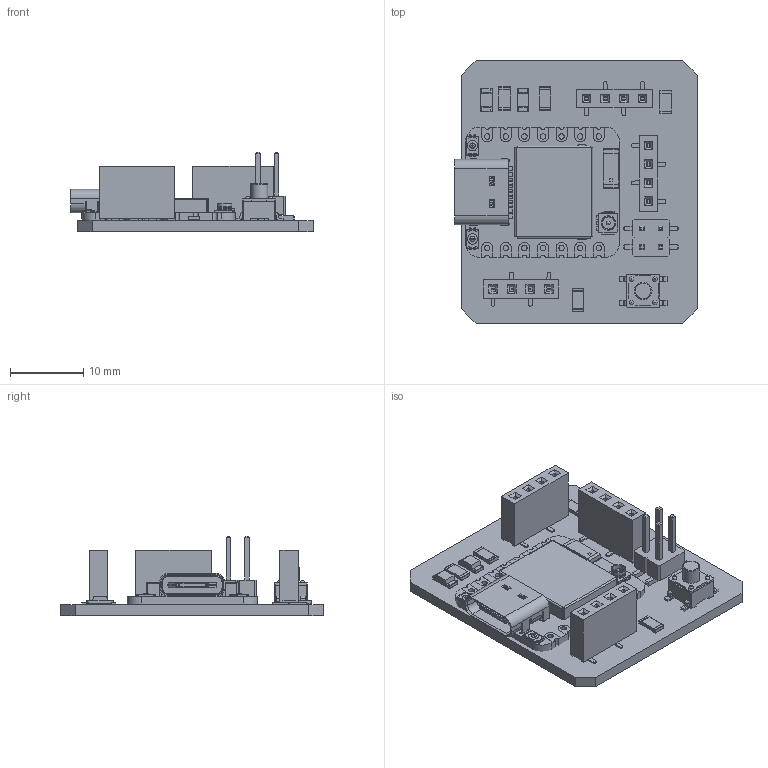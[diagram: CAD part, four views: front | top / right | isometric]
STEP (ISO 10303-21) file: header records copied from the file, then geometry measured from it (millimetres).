
FILE_DESCRIPTION(('KiCad electronic assembly'),'2;1');
FILE_NAME('ESP32.step','2025-03-04T11:24:42',('Pcbnew'),('Kicad'), 'Open CASCADE STEP processor 7.8','KiCad to STEP converter','Unknown' );
FILE_SCHEMA(('AUTOMOTIVE_DESIGN { 1 0 10303 214 1 1 1 1 }'));
Length unit declared in the file: millimetre
Products named in the file (40): ESP32 1; LED_1206_3216Metric; Seeed Studio XIAO ESP32-C6; Seeed Studio XIAO-ESP32-C6; USB TYPE C PORT; USB TYPE C PORT (1); BOSS-EXTRUDE14_8_; BOSS-EXTRUDE7_4_; BOSS-EXTRUDE7_3_; BOSS-EXTRUDE14_4_; BOSS-EXTRUDE14_2_; BOSS-EXTRUDE14_11_; BOSS-EXTRUDE7_7_; BOSS-EXTRUDE14_9_; BOSS-EXTRUDE14_3_; BOSS-EXTRUDE14_7_; MIRROR2; BOSS-EXTRUDE14_5_; BOSS-EXTRUDE14_12_; BOSS-EXTRUDE7_8_; BOSS-EXTRUDE7_1_; BOSS-EXTRUDE14_10_; BOSS-EXTRUDE7_9_; BOSS-EXTRUDE14_6_; CHAMFER9; BOSS-EXTRUDE14_1_; BOSS-EXTRUDE7_6_; BOSS-EXTRUDE7_2_; CUT-EXTRUDE5; BOSS-EXTRUDE7_5_; U.FL Connector v1; Shield; COMPOUND; SKTAAAE010 v1; KH5220-A36 (Ceramic Antenna) v2; PinSocket_1x04_P2.54mm_Vertical_SMD_Pin1Left; R_1206_3216Metric; PinHeader_2x02_P2.54mm_Vertical_SMD; SW_SPST_PTS647Sx50; ESP32_PCB
Assembly tree (46 placements, depth 6):
  ESP32 1
    LED_1206_3216Metric  x2
    Seeed Studio XIAO ESP32-C6
      Seeed Studio XIAO-ESP32-C6
        USB TYPE C PORT
          USB TYPE C PORT (1)
            BOSS-EXTRUDE14_8_
            BOSS-EXTRUDE7_4_
            BOSS-EXTRUDE7_3_
            BOSS-EXTRUDE14_4_
            BOSS-EXTRUDE14_2_
            BOSS-EXTRUDE14_11_
            BOSS-EXTRUDE7_7_
            BOSS-EXTRUDE14_9_
            BOSS-EXTRUDE14_3_
            BOSS-EXTRUDE14_7_
            MIRROR2
            BOSS-EXTRUDE14_5_
            BOSS-EXTRUDE14_12_
            BOSS-EXTRUDE7_8_
            BOSS-EXTRUDE7_1_
            BOSS-EXTRUDE14_10_
            BOSS-EXTRUDE7_9_
            BOSS-EXTRUDE14_6_
            CHAMFER9
            BOSS-EXTRUDE14_1_
            BOSS-EXTRUDE7_6_
            BOSS-EXTRUDE7_2_
            CUT-EXTRUDE5
            BOSS-EXTRUDE7_5_
        U.FL Connector v1
        Shield
        COMPOUND
      SKTAAAE010 v1  x2
      KH5220-A36 (Ceramic Antenna) v2
    PinSocket_1x04_P2.54mm_Vertical_SMD_Pin1Left  x3
    R_1206_3216Metric  x4
    PinHeader_2x02_P2.54mm_Vertical_SMD
    SW_SPST_PTS647Sx50
    ESP32_PCB
Bounding box: 33.11 x 35.9 x 10.89 mm (x, y, z)
Volume: 3036.7 mm3; surface area: 5891.7 mm2
Topology: 59 solids, 59 shells, 1876 faces, 4812 edges, 3108 vertices
Faces by surface type: plane 1481, cylinder 352, torus 15, cone 9, bspline 8, sphere 7, revolution 4
Full cylindrical faces by diameter (mm): 0.5 x3, 0.6 x6, 0.75 x14, 1.524 x8, 1.65 x1, 1.9 x1, 2 x2, 2.3 x1, 2.4 x1
Entity records: 48768 total; most frequent: CARTESIAN_POINT 7705, ORIENTED_EDGE 7102, DIRECTION 7035, EDGE_CURVE 3551, LINE 2931, VECTOR 2931, VERTEX_POINT 2303, AXIS2_PLACEMENT_3D 2050
